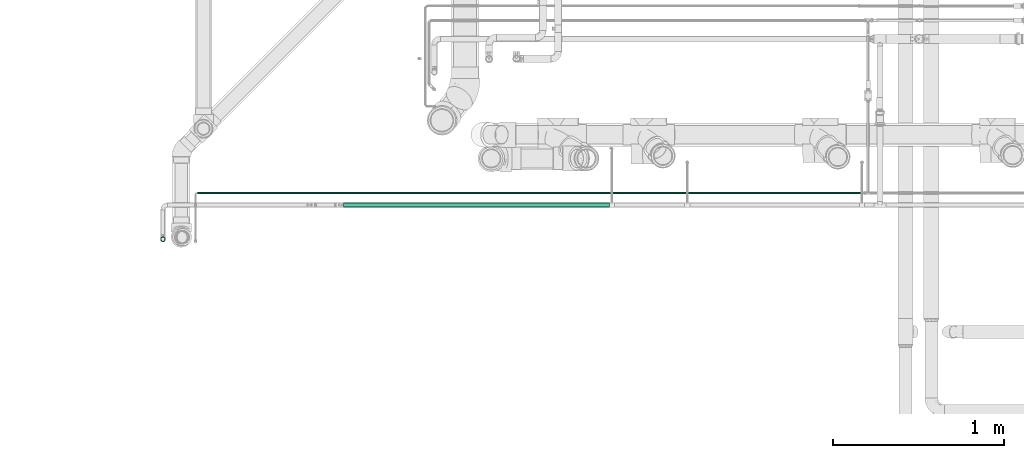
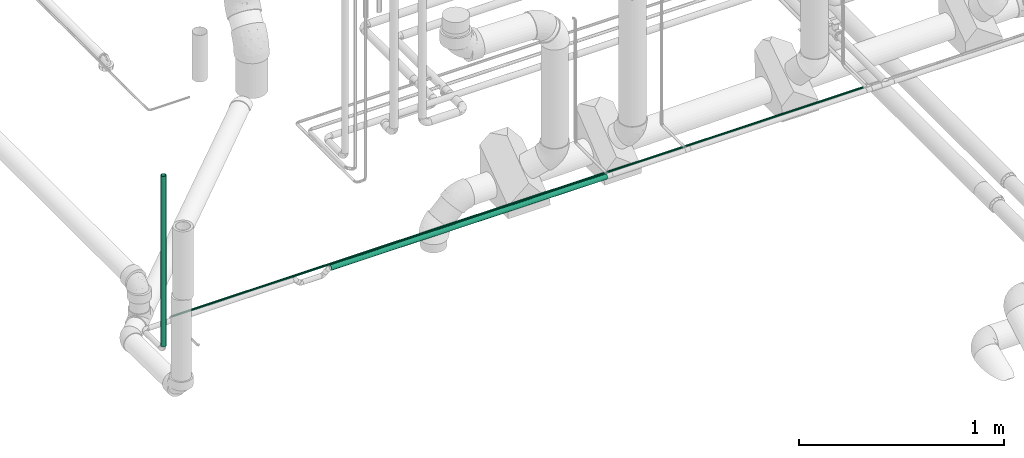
# One storey, part 45 of 156: 3 flow segments.
"""IFC2X3 building model written with IfcOpenShell, lengths in millimetres."""

from ifc_helpers import new_model, entity, si_unit, converted_unit, derived_unit, direction, frame, origin_with_axes, origin_2d_with_axis, place, context, subcontext, project, spatial, hollow_circle, extrude, source, transform, mapped, type_object, element, save


model = new_model("IFC2X3")

# Units and contexts
model_context = context("Model", 3, precision=0.01, world=frame((0.0, 4.29681676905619e-09, 0.0)), true_north=direction((4.01073788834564e-13, 1.0)))
plan_context = context("Plan", 3, precision=0.01, world=frame((0.0, 4.29681676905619e-09, 0.0)), true_north=direction((4.01073788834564e-13, 1.0)))
body_context = subcontext(model_context, "Body", "Model", "MODEL_VIEW")
ifc_project = project(units=[converted_unit("PLANEANGLEUNIT", "DEGREE", entity("IfcPositiveLengthMeasure", 0.0174532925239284), si_unit("PLANEANGLEUNIT", "RADIAN"), dimensions=[0, 0, 0, 0, 0, 0, 0]), si_unit("AREAUNIT", "SQUARE_METRE"), si_unit("LENGTHUNIT", "METRE", prefix="MILLI"), si_unit("MASSUNIT", "GRAM", prefix="KILO"), si_unit("POWERUNIT", "WATT"), si_unit("PRESSUREUNIT", "PASCAL", prefix="KILO"), si_unit("FORCEUNIT", "NEWTON", prefix="KILO"), si_unit("ELECTRICVOLTAGEUNIT", "VOLT"), si_unit("ELECTRICCURRENTUNIT", "AMPERE"), si_unit("THERMODYNAMICTEMPERATUREUNIT", "DEGREE_CELSIUS"), si_unit("TIMEUNIT", "SECOND"), si_unit("VOLUMEUNIT", "CUBIC_METRE"), derived_unit("LINEARVELOCITYUNIT", [(si_unit("LENGTHUNIT", "METRE"), 1), (si_unit("TIMEUNIT", "SECOND"), -1)]), derived_unit("VOLUMETRICFLOWRATEUNIT", [(si_unit("VOLUMEUNIT", "CUBIC_METRE"), 1), (si_unit("TIMEUNIT", "SECOND"), -1)]), derived_unit("THERMALTRANSMITTANCEUNIT", [(si_unit("POWERUNIT", "WATT"), 1), (si_unit("THERMODYNAMICTEMPERATUREUNIT", "KELVIN"), -1), (si_unit("AREAUNIT", "SQUARE_METRE"), -1)]), derived_unit("SOUNDPRESSUREUNIT", [(si_unit("PRESSUREUNIT", "PASCAL"), 1)])], contexts=[model_context, plan_context])

# Site, building, storey
site_placement = place(None, frame((0.0, -4.29681676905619e-09, 0.0), z_axis=(0.0, 0.0, 1.0), x_axis=(1.0, 0.0, 0.0)))
site = spatial("IfcSite", under=ifc_project, at=site_placement, CompositionType="ELEMENT")
building_placement = place(site_placement, frame((0.0, 4.29681676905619e-09, 0.0), z_axis=(0.0, 0.0, 1.0), x_axis=(1.0, 0.0, 0.0)))
building = spatial("IfcBuilding", under=site, at=building_placement, Name="mc-building", CompositionType="ELEMENT")
storey_placement = place(building_placement, frame((0.0, 0.0, 205200.0), z_axis=(0.0, 0.0, 1.0), x_axis=(1.0, 0.0, 0.0)))
storey = spatial("IfcBuildingStorey", under=building, at=storey_placement, Name="Nivå D + 1,2 m", CompositionType="ELEMENT", Elevation=205200.0)

# Flow segments
pipe_segment_type = type_object("IfcPipeSegmentType", Name="Kobberrør", PredefinedType="RIGIDSEGMENT")
shared_shape_1 = source(origin_with_axes(), body_context, "Body", "SweptSolid", [
    extrude(hollow_circle(Radius=14.0, WallThickness=2.0, at=origin_2d_with_axis()), frame((0.0, 0.0, 0.0), z_axis=(1.0, 0.0, 0.0), x_axis=(0.0, 1.0, 0.0)), (0.0, 0.0, 1.0), 1016.3),
])
flow_segment_1_placement = place(storey_placement, frame((322541.76693, 462113.63355, 4346.0), z_axis=(1.0, 0.0, 0.0), x_axis=(0.0, 0.0, 1.0)))
element("IfcFlowSegment", 1, at=flow_segment_1_placement, inside=storey, type_object=pipe_segment_type, Name="Kobberrør", context=body_context, shape_type="MappedRepresentation", body=[
    mapped(shared_shape_1, transform((0.0, 0.0, 0.0), scale=1.0)),
])
shared_shape_2 = source(origin_with_axes(), body_context, "Body", "SweptSolid", [
    extrude(hollow_circle(Radius=6.0, WallThickness=2.0, at=origin_2d_with_axis()), frame((0.0, 0.0, 0.0), z_axis=(1.0, 0.0, 0.0), x_axis=(0.0, 1.0, 0.0)), (0.0, 0.0, 1.0), 3894.0),
])
flow_segment_2_placement = place(storey_placement, frame((326638.09724, 462383.7286, 4285.29988999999), z_axis=(0.0, 0.0, 1.0), x_axis=(-1.0, 0.0, 0.0)))
element("IfcFlowSegment", 2, at=flow_segment_2_placement, inside=storey, type_object=pipe_segment_type, Name="Kobberrør", context=body_context, shape_type="MappedRepresentation", body=[
    mapped(shared_shape_2, transform((0.0, 0.0, 0.0), scale=1.0)),
])
shared_shape_3 = source(origin_with_axes(), body_context, "Body", "SweptSolid", [
    extrude(hollow_circle(Radius=14.0, WallThickness=2.0, at=origin_2d_with_axis()), frame((0.0, 0.0, 0.0), z_axis=(1.0, 0.0, 0.0), x_axis=(0.0, 1.0, 0.0)), (0.0, 0.0, 1.0), 1555.4),
])
flow_segment_3_placement = place(storey_placement, frame((325152.58098, 462313.63355, 4318.0), z_axis=(0.0, 0.0, 1.0), x_axis=(-1.0, 0.0, 0.0)))
element("IfcFlowSegment", 3, at=flow_segment_3_placement, inside=storey, type_object=pipe_segment_type, Name="Kobberrør", context=body_context, shape_type="MappedRepresentation", body=[
    mapped(shared_shape_3, transform((0.0, 0.0, 0.0), scale=1.0)),
])

save(model, "model.ifc")
